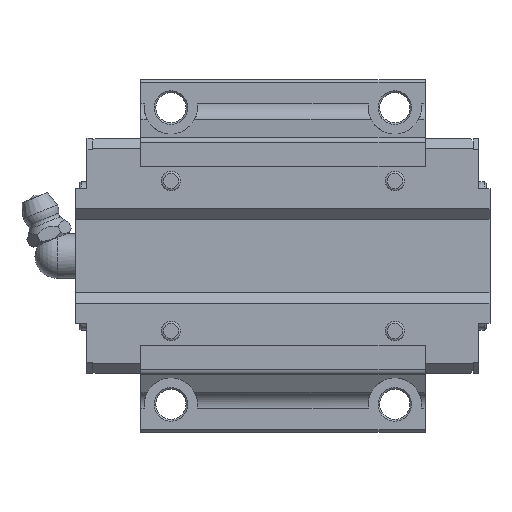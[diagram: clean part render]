
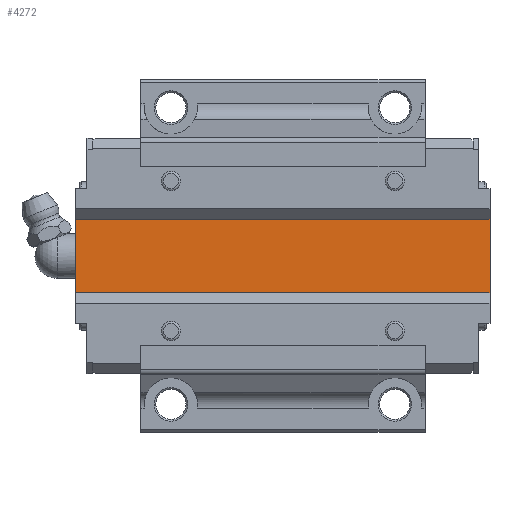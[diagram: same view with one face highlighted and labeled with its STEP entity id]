
A CAD part, front view. The second image highlights one B-rep face of the part: STEP entity #4272.
In plain terms, the highlighted planar face has unit normal (0, -1, 0).
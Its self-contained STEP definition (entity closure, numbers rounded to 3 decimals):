
#418=LINE('',#6344,#852);
#432=LINE('',#6380,#866);
#586=LINE('',#6860,#1020);
#587=LINE('',#6862,#1021);
#852=VECTOR('',#5056,1000.);
#866=VECTOR('',#5080,1000.);
#1020=VECTOR('',#5544,1000.);
#1021=VECTOR('',#5547,1000.);
#1865=ORIENTED_EDGE('',*,*,#2486,.F.);
#1866=ORIENTED_EDGE('',*,*,#2726,.F.);
#1867=ORIENTED_EDGE('',*,*,#2504,.T.);
#1868=ORIENTED_EDGE('',*,*,#2727,.T.);
#2486=EDGE_CURVE('',#3044,#3045,#418,.T.);
#2504=EDGE_CURVE('',#3062,#3061,#432,.T.);
#2726=EDGE_CURVE('',#3062,#3044,#586,.T.);
#2727=EDGE_CURVE('',#3061,#3045,#587,.T.);
#3044=VERTEX_POINT('',#6343);
#3045=VERTEX_POINT('',#6345);
#3061=VERTEX_POINT('',#6379);
#3062=VERTEX_POINT('',#6381);
#3486=EDGE_LOOP('',(#1865,#1866,#1867,#1868));
#3809=FACE_BOUND('',#3486,.T.);
#4066=PLANE('',#4628);
#4272=ADVANCED_FACE('',(#3809),#4066,.T.);
#4628=AXIS2_PLACEMENT_3D('',#6861,#5545,#5546);
#5056=DIRECTION('',(0.,0.,1.));
#5080=DIRECTION('',(0.,0.,1.));
#5544=DIRECTION('',(-1.,0.,0.));
#5545=DIRECTION('',(0.,-1.,0.));
#5546=DIRECTION('',(0.,0.,-1.));
#5547=DIRECTION('',(-1.,0.,0.));
#6343=CARTESIAN_POINT('',(-37.,14.,-7.16));
#6344=CARTESIAN_POINT('',(-37.,14.,-7.16));
#6345=CARTESIAN_POINT('',(-37.,14.,7.16));
#6379=CARTESIAN_POINT('',(37.,14.,7.16));
#6380=CARTESIAN_POINT('',(37.,14.,-7.16));
#6381=CARTESIAN_POINT('',(37.,14.,-7.16));
#6860=CARTESIAN_POINT('',(37.,14.,-7.16));
#6861=CARTESIAN_POINT('',(37.,14.,-7.16));
#6862=CARTESIAN_POINT('',(37.,14.,7.16));
